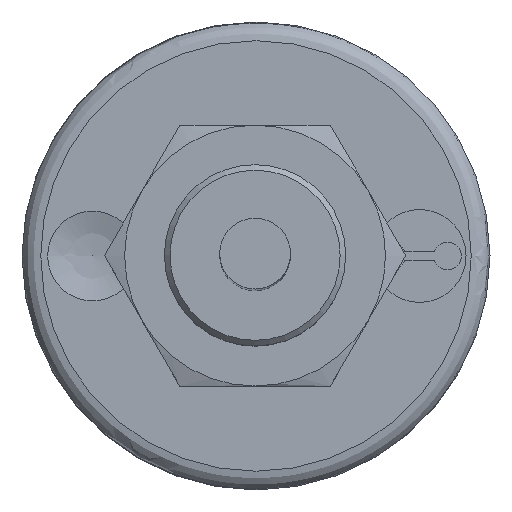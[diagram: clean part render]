
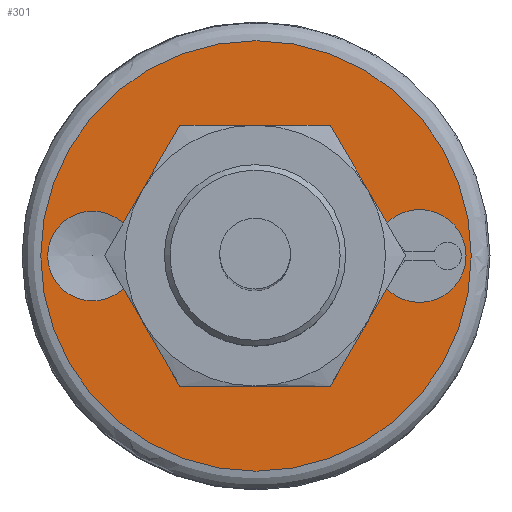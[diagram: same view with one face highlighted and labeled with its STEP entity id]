
A CAD part, top view. The second image highlights one B-rep face of the part: STEP entity #301.
In plain terms, the highlighted planar face has unit normal (0, 0, 1).
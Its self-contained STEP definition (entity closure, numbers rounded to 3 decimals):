
#208=PLANE('',#1023);
#301=ADVANCED_FACE('',(#403,#404,#405),#208,.T.);
#403=FACE_BOUND('',#474,.T.);
#404=FACE_BOUND('',#475,.T.);
#405=FACE_BOUND('',#476,.T.);
#474=EDGE_LOOP('',(#724));
#475=EDGE_LOOP('',(#725));
#476=EDGE_LOOP('',(#726));
#525=CIRCLE('',#1017,2.408);
#527=CIRCLE('',#1021,11.548);
#528=CIRCLE('',#1022,2.491);
#724=ORIENTED_EDGE('',*,*,#911,.T.);
#725=ORIENTED_EDGE('',*,*,#914,.T.);
#726=ORIENTED_EDGE('',*,*,#913,.T.);
#808=VERTEX_POINT('',#1561);
#810=VERTEX_POINT('',#1567);
#811=VERTEX_POINT('',#1590);
#911=EDGE_CURVE('',#808,#808,#525,.T.);
#913=EDGE_CURVE('',#810,#810,#527,.T.);
#914=EDGE_CURVE('',#811,#811,#528,.T.);
#1017=AXIS2_PLACEMENT_3D('',#1560,#1250,#1251);
#1021=AXIS2_PLACEMENT_3D('',#1566,#1258,#1259);
#1022=AXIS2_PLACEMENT_3D('',#1589,#1260,#1261);
#1023=AXIS2_PLACEMENT_3D('',#1591,#1262,#1263);
#1250=DIRECTION('',(0.,0.,-1.));
#1251=DIRECTION('',(-1.,0.,0.));
#1258=DIRECTION('',(0.,0.,1.));
#1259=DIRECTION('',(1.,0.,0.));
#1260=DIRECTION('',(0.,0.,-1.));
#1261=DIRECTION('',(0.,1.,0.));
#1262=DIRECTION('',(0.,0.,1.));
#1263=DIRECTION('',(0.,1.,0.));
#1560=CARTESIAN_POINT('',(-8.718,0.,-20.994));
#1561=CARTESIAN_POINT('',(-11.126,0.,-20.994));
#1566=CARTESIAN_POINT('',(0.05,0.,-20.994));
#1567=CARTESIAN_POINT('',(11.598,0.,-20.994));
#1589=CARTESIAN_POINT('',(8.828,0.,-20.994));
#1590=CARTESIAN_POINT('',(8.828,2.491,-20.994));
#1591=CARTESIAN_POINT('',(12.753,-12.703,-20.994));
